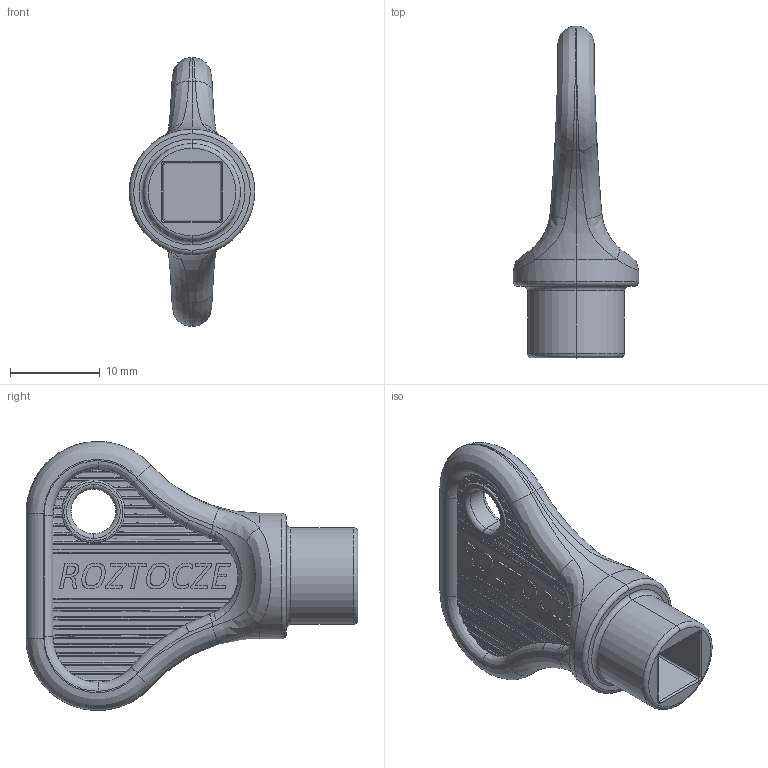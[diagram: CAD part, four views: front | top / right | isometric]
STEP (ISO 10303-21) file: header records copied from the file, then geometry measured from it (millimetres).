
FILE_DESCRIPTION (( 'STEP AP203' ), '1' );
FILE_NAME ('2.KLB-KW6.002.STEP', '2022-02-11T12:07:45', ( '' ), ( '' ), 'SwSTEP 2.0', 'SolidWorks 2021', '' );
FILE_SCHEMA (( 'CONFIG_CONTROL_DESIGN' ));
Length unit declared in the file: millimetre
Products named in the file (1): 2.KLB-KW6.002
Bounding box: 14 x 37 x 30 mm (x, y, z)
Volume: 2871.1 mm3; surface area: 2373.2 mm2
Topology: 1 solids, 1 shells, 531 faces, 1486 edges, 974 vertices
Faces by surface type: bspline 221, cylinder 165, torus 77, plane 68
Entity records: 27137 total; most frequent: CARTESIAN_POINT 15890, ORIENTED_EDGE 2972, EDGE_CURVE 1486, DIRECTION 1421, VERTEX_POINT 974, B_SPLINE_CURVE_WITH_KNOTS 881, AXIS2_PLACEMENT_3D 587, EDGE_LOOP 550
